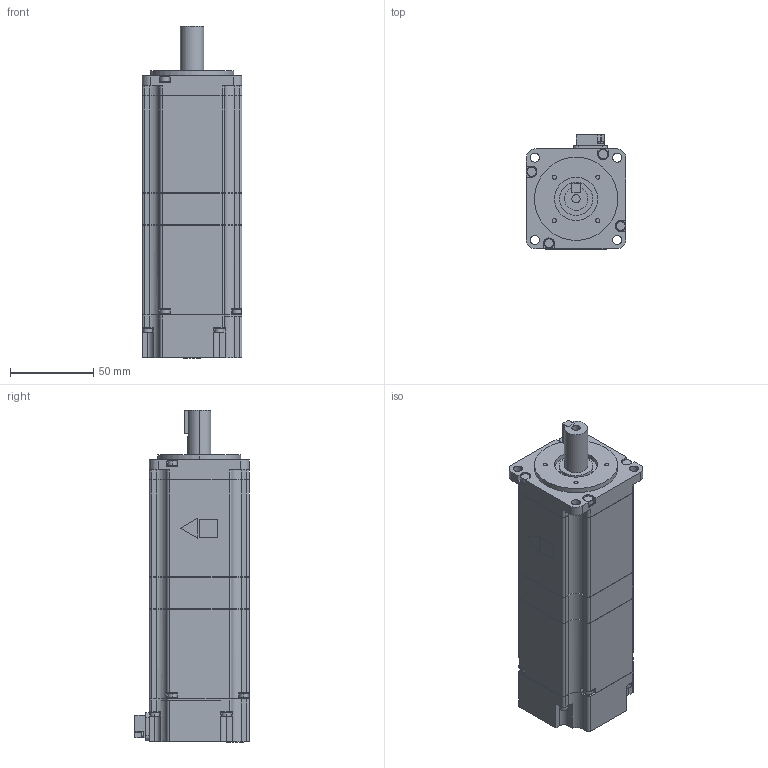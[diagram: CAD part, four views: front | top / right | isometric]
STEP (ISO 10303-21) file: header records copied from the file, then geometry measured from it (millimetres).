
FILE_DESCRIPTION (( 'STEP AP203' ), '1' );
FILE_NAME ('sgm7j_06a6a6c.STEP', '2016-11-12T04:57:06', ( '匠エンジニアリング山之内' ), ( 'TAKUMI-Engniaring' ), 'SwSTEP 2.0', 'SolidWorks 2006303', '' );
FILE_SCHEMA (( 'CONFIG_CONTROL_DESIGN' ));
Length unit declared in the file: millimetre
Products named in the file (3): sgm7j_06a6a6c; sgm7j_06a6a6c_base; sgm7j_06a6a6c_key
Assembly tree (2 placements, depth 2):
  sgm7j_06a6a6c
    sgm7j_06a6a6c_key
    sgm7j_06a6a6c_base
Bounding box: 60.1 x 68.8 x 199.6 mm (x, y, z)
Volume: 548237.2 mm3; surface area: 52301.9 mm2
Topology: 2 solids, 2 shells, 522 faces, 1367 edges, 906 vertices
Faces by surface type: plane 293, cylinder 229
Entity records: 16517 total; most frequent: DIRECTION 2892, CARTESIAN_POINT 2846, ORIENTED_EDGE 2734, EDGE_CURVE 1367, AXIS2_PLACEMENT_3D 1002, VERTEX_POINT 906, VECTOR 888, LINE 888
